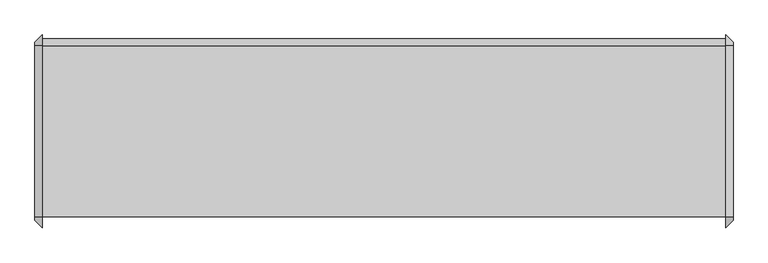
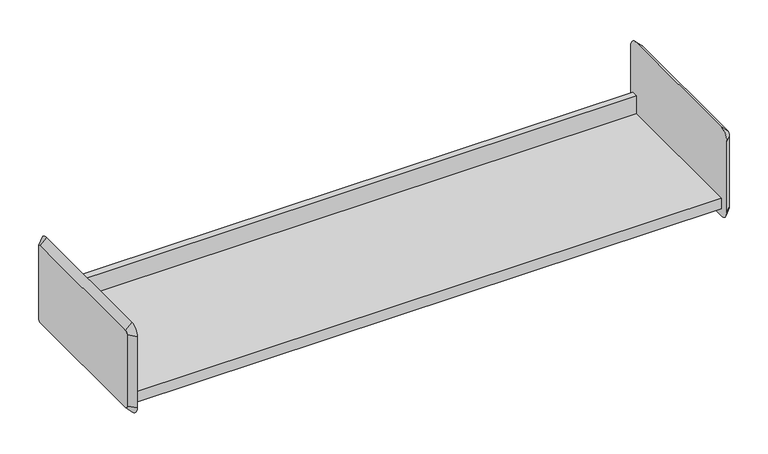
"""IFC4 building model written with IfcOpenShell, lengths in millimetres: furniture geometry."""

from ifc_helpers import new_model, si_unit, frame, origin, place, context, project, spatial, polyline, circle_curve, outline, extrude, source, transform, mapped, element, save
from ifc_brep_helpers import plane_surface, revolved_surface, advanced_brep


def furniture_f46d5b46(model_context):
    return source(origin(), model_context, "Body", "SolidModel", [
        extrude(outline(polyline([(-136.525, 1219.2), (161.925, 1219.2), (161.925, 1257.3), (174.625, 1257.3), (174.625, 1254.125), (165.1, 1254.125), (165.1, 1216.025), (-133.35, 1216.025), (-133.35, 1196.975), (-136.525, 1196.975), (-136.525, 1219.2)])), frame((-720.8420045, 0.0, 0.0), z_axis=(1.0, 0.0, 0.0), x_axis=(0.0, 1.0, 0.0)), (0.0, 0.0, 1.0), 1193.8),
        advanced_brep(
        [(485.6579955, 161.925, 1358.9), (485.6579955, -136.525, 1358.9), (485.6579955, -142.875, 1352.55), (485.6579955, -142.875, 1200.15), (485.6579955, -136.525, 1193.8), (485.6579955, 161.925, 1193.8), (485.6579955, 168.275, 1200.15), (485.6579955, 168.275, 1352.55), (472.9579955, 161.925, 1371.6), (472.9579955, 180.975, 1352.55), (472.9579955, 180.975, 1200.15), (472.9579955, 161.925, 1181.1), (472.9579955, -136.525, 1181.1), (472.9579955, -155.575, 1200.15), (472.9579955, -155.575, 1352.55), (472.9579955, -136.525, 1371.6)],
        [
            (0, 1),
            (1, 2, circle_curve(frame((485.6579955, -136.525, 1352.55), z_axis=(1.0, 2.4327206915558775e-12, -2.515321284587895e-12), x_axis=(2.5152881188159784e-12, 0.0, 1.0)), 6.35)),
            (2, 3),
            (3, 4, circle_curve(frame((485.6579955, -136.525, 1200.15), z_axis=(1.0, 2.4220625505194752e-12, 2.4087398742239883e-12), x_axis=(2.422024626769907e-12, -1.0, 0.0)), 6.35)),
            (4, 5),
            (5, 6, circle_curve(frame((485.6579955, 161.925, 1200.15), z_axis=(1.0, 2.4433788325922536e-12, -2.451372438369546e-12), x_axis=(-2.451385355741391e-12, 0.0, -1.0)), 6.35)),
            (6, 7),
            (7, 0, circle_curve(frame((485.6579955, 161.925, 1352.55), z_axis=(1.0, 2.4353852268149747e-12, 2.3661073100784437e-12), x_axis=(-2.4353704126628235e-12, 1.0, 0.0)), 6.35)),
            (8, 9, circle_curve(frame((472.9579955, 161.925, 1352.55), z_axis=(-1.0, -2.4353852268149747e-12, -2.3661073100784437e-12), x_axis=(-2.4353704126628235e-12, 1.0, 0.0)), 19.05)),
            (9, 10),
            (10, 11, circle_curve(frame((472.9579955, 161.925, 1200.15), z_axis=(-1.0, -2.4433788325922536e-12, 2.451372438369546e-12), x_axis=(-2.451385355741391e-12, 0.0, -1.0)), 19.05)),
            (11, 12),
            (12, 13, circle_curve(frame((472.9579955, -136.525, 1200.15), z_axis=(-1.0, -2.4220625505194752e-12, -2.4087398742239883e-12), x_axis=(2.422024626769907e-12, -1.0, 0.0)), 19.05)),
            (13, 14),
            (14, 15, circle_curve(frame((472.9579955, -136.525, 1352.55), z_axis=(-1.0, -2.4327206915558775e-12, 2.515321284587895e-12), x_axis=(2.5152881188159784e-12, 0.0, 1.0)), 19.05)),
            (15, 8),
            (15, 1),
            (0, 8),
            (14, 2),
            (13, 3),
            (12, 4),
            (11, 5),
            (10, 6),
            (9, 7),
        ],
        [
            plane_surface(frame((485.6579955, 12.7, 1276.35), z_axis=(1.0, 0.0, 0.0), x_axis=(0.0, -1.0, 0.0))),
            plane_surface(frame((472.9579955, 12.7, 1276.35), z_axis=(-1.0, 0.0, 0.0), x_axis=(0.0, -1.0, 0.0))),
            plane_surface(frame((472.9579955, 12.7, 1371.6), z_axis=(0.7071067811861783, 0.0, 0.7071067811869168), x_axis=(0.0, -1.0, 0.0))),
            revolved_surface(polyline([(485.657995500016, -136.525, 1358.899999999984), (472.9579955, -136.525, 1371.6)]), (492.0079955, -136.525, 1352.55), (-1.0, -2.4327206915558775e-12, 2.515321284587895e-12)),
            plane_surface(frame((472.9579955, -155.575, 1276.35), z_axis=(0.7071067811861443, -0.7071067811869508, 0.0), x_axis=(0.0, 0.0, -1.0))),
            revolved_surface(polyline([(485.65799550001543, -142.8749999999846, 1200.15), (472.9579955, -155.575, 1200.15)]), (492.0079955, -136.525, 1200.15), (-1.0, -2.4220625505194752e-12, -2.4087398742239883e-12)),
            plane_surface(frame((472.9579955, 12.7, 1181.1), z_axis=(0.7071067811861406, 0.0, -0.7071067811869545), x_axis=(0.0, 1.0, 0.0))),
            revolved_surface(polyline([(485.6579955, 161.925, 1193.8000000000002), (472.95799549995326, 161.925, 1181.0999999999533)]), (492.0079955, 161.925, 1200.15), (-1.0, -2.4433788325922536e-12, 2.451372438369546e-12)),
            plane_surface(frame((472.9579955, 180.975, 1276.35), z_axis=(0.7071067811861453, 0.7071067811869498, 0.0), x_axis=(0.0, 0.0, 1.0))),
            revolved_surface(polyline([(485.6579955, 168.27499999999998, 1352.55), (472.9579954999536, 180.97500000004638, 1352.55)]), (492.0079955, 161.925, 1352.55), (-1.0, -2.4353852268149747e-12, -2.3661073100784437e-12)),
        ],
        [
            (0, [[1, 2, 3, 4, 5, 6, 7, 8]]),
            (1, [[9, 10, 11, 12, 13, 14, 15, 16]]),
            (2, [[-16, 17, -1, 18]]),
            (3, [[-15, 19, -2, -17]]),
            (4, [[-14, 20, -3, -19]]),
            (5, [[-13, 21, -4, -20]]),
            (6, [[-12, 22, -5, -21]]),
            (7, [[-11, 23, -6, -22]]),
            (8, [[-10, 24, -7, -23]]),
            (9, [[-9, -18, -8, -24]]),
        ],
    ),
        advanced_brep(
        [(-733.5420045, -136.525, 1358.9), (-733.5420045, 161.925, 1358.9), (-733.5420045, 168.275, 1352.55), (-733.5420045, 168.275, 1200.15), (-733.5420045, 161.925, 1193.8), (-733.5420045, -136.525, 1193.8), (-733.5420045, -142.875, 1200.15), (-733.5420045, -142.875, 1352.55), (-720.8420045, -136.525, 1371.6), (-720.8420045, -155.575, 1352.55), (-720.8420045, -155.575, 1200.15), (-720.8420045, -136.525, 1181.1), (-720.8420045, 161.925, 1181.1), (-720.8420045, 180.975, 1200.15), (-720.8420045, 180.975, 1352.55), (-720.8420045, 161.925, 1371.6)],
        [
            (0, 1),
            (1, 2, circle_curve(frame((-733.5420045, 161.925, 1352.55), z_axis=(-1.0, 0.0, 0.0), x_axis=(0.0, 0.0, 1.0)), 6.35)),
            (2, 3),
            (3, 4, circle_curve(frame((-733.5420045, 161.925, 1200.15), z_axis=(-1.0, 0.0, 0.0), x_axis=(0.0, 1.0, 0.0)), 6.35)),
            (4, 5),
            (5, 6, circle_curve(frame((-733.5420045, -136.525, 1200.15), z_axis=(-1.0, 0.0, 0.0), x_axis=(0.0, 0.0, -1.0)), 6.35)),
            (6, 7),
            (7, 0, circle_curve(frame((-733.5420045, -136.525, 1352.55), z_axis=(-1.0, 0.0, 0.0), x_axis=(0.0, -1.0, 0.0)), 6.35)),
            (8, 9, circle_curve(frame((-720.8420045, -136.525, 1352.55), z_axis=(1.0, 0.0, 0.0), x_axis=(0.0, -1.0, 0.0)), 19.05)),
            (9, 10),
            (10, 11, circle_curve(frame((-720.8420045, -136.525, 1200.15), z_axis=(1.0, 0.0, 0.0), x_axis=(0.0, 0.0, -1.0)), 19.05)),
            (11, 12),
            (12, 13, circle_curve(frame((-720.8420045, 161.925, 1200.15), z_axis=(1.0, 0.0, 0.0), x_axis=(0.0, 1.0, 0.0)), 19.05)),
            (13, 14),
            (14, 15, circle_curve(frame((-720.8420045, 161.925, 1352.55), z_axis=(1.0, 0.0, 0.0), x_axis=(0.0, 0.0, 1.0)), 19.05)),
            (15, 8),
            (15, 1),
            (0, 8),
            (14, 2),
            (13, 3),
            (12, 4),
            (11, 5),
            (10, 6),
            (9, 7),
        ],
        [
            plane_surface(frame((-733.5420045, 12.7, 1276.35), z_axis=(-1.0, 0.0, 0.0), x_axis=(0.0, -1.0, 0.0))),
            plane_surface(frame((-720.8420045, 12.7, 1276.35), z_axis=(1.0, 0.0, 0.0), x_axis=(0.0, -1.0, 0.0))),
            plane_surface(frame((-720.8420045, 12.7, 1371.6), z_axis=(-0.7071067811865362, 0.0, 0.7071067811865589), x_axis=(0.0, 1.0, 0.0))),
            revolved_surface(polyline([(-733.5420045, 161.925, 1358.9), (-720.8420045, 161.925, 1371.6)]), (-739.8920045, 161.925, 1352.55), (1.0, 0.0, 0.0)),
            plane_surface(frame((-720.8420045, 180.975, 1276.35), z_axis=(-0.7071067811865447, 0.7071067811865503, 0.0), x_axis=(0.0, 0.0, -1.0))),
            revolved_surface(polyline([(-733.5420045, 168.27500000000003, 1200.15), (-720.8420045, 180.975, 1200.15)]), (-739.8920045, 161.925, 1200.15), (1.0, 0.0, 0.0)),
            plane_surface(frame((-720.8420045, 12.7, 1181.1), z_axis=(-0.7071067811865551, 0.0, -0.70710678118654), x_axis=(0.0, -1.0, 0.0))),
            revolved_surface(polyline([(-733.5420045, -136.525, 1193.8), (-720.8420045, -136.525, 1181.1)]), (-739.8920045, -136.525, 1200.15), (1.0, 0.0, 0.0)),
            plane_surface(frame((-720.8420045, -155.575, 1276.35), z_axis=(-0.7071067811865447, -0.7071067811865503, 0.0), x_axis=(0.0, 0.0, 1.0))),
            revolved_surface(polyline([(-733.5420045, -142.87500000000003, 1352.55), (-720.8420045, -155.575, 1352.55)]), (-739.8920045, -136.525, 1352.55), (1.0, 0.0, 0.0)),
        ],
        [
            (0, [[1, 2, 3, 4, 5, 6, 7, 8]]),
            (1, [[9, 10, 11, 12, 13, 14, 15, 16]]),
            (2, [[-16, 17, -1, 18]]),
            (3, [[-15, 19, -2, -17]]),
            (4, [[-14, 20, -3, -19]]),
            (5, [[-13, 21, -4, -20]]),
            (6, [[-12, 22, -5, -21]]),
            (7, [[-11, 23, -6, -22]]),
            (8, [[-10, 24, -7, -23]]),
            (9, [[-9, -18, -8, -24]]),
        ],
    ),
    ])


if __name__ == "__main__":
    model = new_model("IFC4")
    model_context = context("Model", 3, world=origin())
    ifc_project = project(units=[si_unit("LENGTHUNIT", "METRE", prefix="MILLI")], contexts=[model_context])
    site = spatial("IfcSite", under=ifc_project)
    building = spatial("IfcBuilding", under=site)
    placement = place(None, origin())
    furniture_shape = furniture_f46d5b46(model_context)
    element("IfcFurniture", 1, ObjectType="HermanMiller_ActionOffice_A3220_B-StyleStorageDisplay : Shelf 13\"D x 48\"W", at=placement, inside=building, context=model_context, shape_type="MappedRepresentation", body=[
        mapped(furniture_shape, transform((0.0, 0.0, 0.0), x_axis=(1.0, 0.0, 0.0), y_axis=(0.0, 1.0, 0.0), z_axis=(0.0, 0.0, 1.0))),
    ])
    save(model, "model.ifc")
